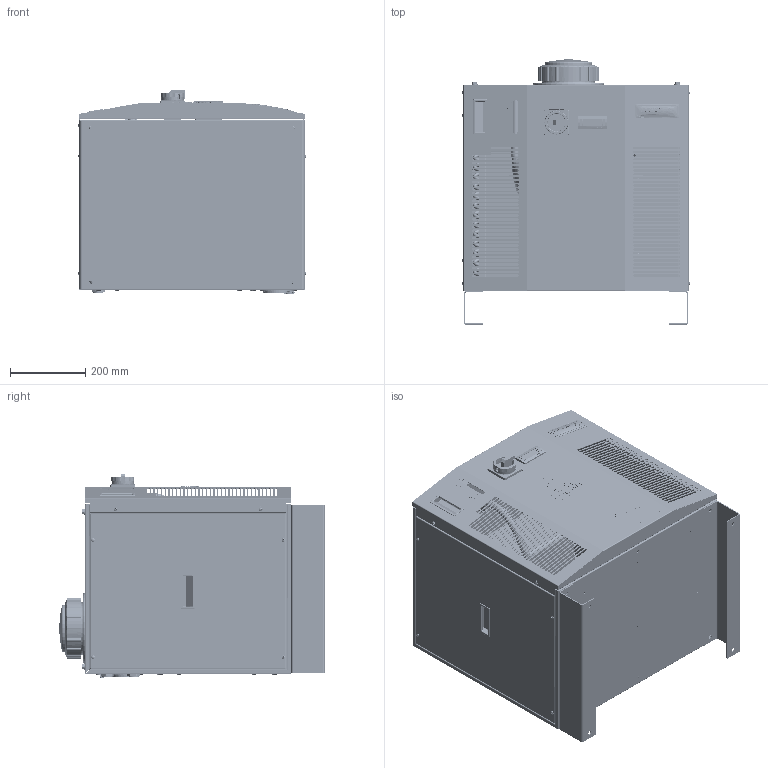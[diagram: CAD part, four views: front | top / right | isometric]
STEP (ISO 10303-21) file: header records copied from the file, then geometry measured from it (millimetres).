
FILE_DESCRIPTION (( 'STEP AP214' ), '1' );
FILE_NAME ('CC-Sm.step', '2014-07-10T20:48:26', ( '' ), ( '' ), 'SwSTEP 2.0', 'SolidWorks 2012', '' );
FILE_SCHEMA (( 'AUTOMOTIVE_DESIGN' ));
Length unit declared in the file: millimetre
Products named in the file (41): 020101201_020101201; 820800034_820800034; 085110130_085110130; 30219-023_885000029; 30219-015_885000030; 30219-022_885000028; 30219-021_885000027; 015080031; 30219-037_885000106; 30219-019_885000025; 085000160_085000160; 885000105_885000105; 30219-017_885000023; 8201000010_8201000010; 820100010_820100010; 80035-044_802002115; 80035-043_802002057; 800910068_800910068; 830600003_830600003; 830670046_Matched to Part; Low profile Flush Pull handle_820700000; 80035-022_802710042; 850380005_04) CCSm Sight (US) = 0.55M; 850380033_850380033; 820800009_default; 70044-033_702721151; 020100901_020100901; 020140240_KB-Rivet 3-16";Lg Flg;MultGrip-short ; 820140010_default; 020140042_020140042; 70044-034_820700002; 70044-034_door side; 70044-034_Housing side; 830600204_830600204; 089000050_089000050; 80035-019_802710031; 814000015_814000015; CC chiller tank tank_820804004; 850380014_850380014; 80035-021_802710041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
Assembly tree (73 placements, depth 3):
  CC-Sm
    80035-021_802710041
    850380014_850380014  x2
    CC chiller tank tank_820804004
    814000015_814000015
    80035-019_802710031  x2
    089000050_089000050
    830600204_830600204
    70044-034_820700002
      70044-034_Housing side
      70044-034_door side
    020140042_020140042  x4
    820140010_default  x8
    020140240_KB-Rivet 3-16";Lg Flg;MultGrip-short   x4
    020100901_020100901  x3
    70044-033_702721151
    820800009_default
    850380033_850380033
    850380005_04) CCSm Sight (US) = 0.55M
    80035-022_802710042
    Low profile Flush Pull handle_820700000  x3
    800910068_800910068
      830670046_Matched to Part
      830600003_830600003
    80035-043_802002057
    80035-044_802002115
    820100010_820100010
    8201000010_8201000010  x9
    30219-017_885000023
    885000105_885000105
    085000160_085000160
    30219-019_885000025
    30219-037_885000106
    015080031
    30219-021_885000027
    30219-022_885000028
    30219-015_885000030
    30219-023_885000029
    085110130_085110130  x3
    820800034_820800034  x2
    020101201_020101201  x4
Bounding box: 606.67 x 707.35 x 545.97 mm (x, y, z)
Volume: 12045243.3 mm3; surface area: 6765177.5 mm2
Topology: 596 solids, 597 shells, 14952 faces, 38017 edges, 24708 vertices
Faces by surface type: plane 9310, bspline 3437, cylinder 1555, cone 334, torus 230, sphere 86
Full cylindrical faces by diameter (mm): 0.884 x1, 0.966 x1, 2.3 x4, 2.72 x8, 3.091 x75, 3.985 x75, 4 x6, 4.1 x40, 4.52 x8, 4.79 x4, 4.8 x21, 4.826 x10, 5 x4, 5.1 x8, 5.613 x8, 5.955 x4, 6 x6, 6.1 x3, 6.198 x1, 6.6 x2, 6.647 x4, 7.937 x4, 8 x11, 8.509 x29, 9.474 x10, 9.525 x113, 9.6 x4, 10.317 x8, 11.278 x1, 12.7 x1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
Entity records: 769724 total; most frequent: CARTESIAN_POINT 337902, ORIENTED_EDGE 69176, DIRECTION 50523, EDGE_CURVE 34588, VECTOR 24359, LINE 24359, VERTEX_POINT 22966, EDGE_LOOP 15882
